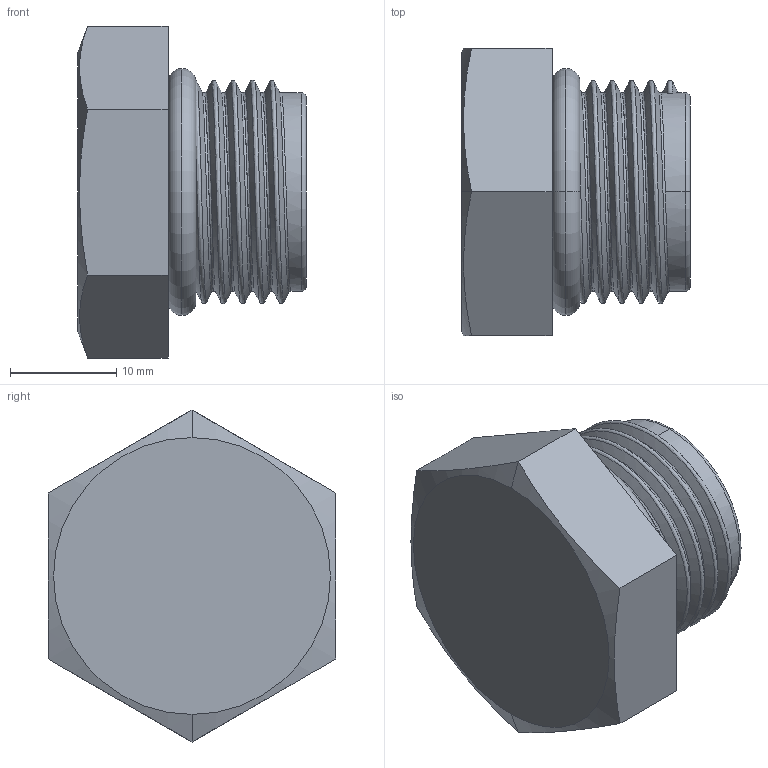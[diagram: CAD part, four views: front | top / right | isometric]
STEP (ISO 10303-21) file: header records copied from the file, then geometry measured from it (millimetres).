
FILE_DESCRIPTION (( 'STEP AP214' ), '1' );
FILE_NAME ('00200_0303.STEP', '2020-05-13T13:14:10', ( 'user' ), ( 'Hewlett-Packard Company' ), 'SwSTEP 2.0', 'SolidWorks 2011', '' );
FILE_SCHEMA (( 'AUTOMOTIVE_DESIGN' ));
Length unit declared in the file: millimetre
Products named in the file (1): 00200_0303
Bounding box: 21.5 x 27 x 31.18 mm (x, y, z)
Volume: 6478.2 mm3; surface area: 4599.3 mm2
Topology: 2 solids, 2 shells, 52 faces, 133 edges, 83 vertices
Faces by surface type: torus 13, cylinder 13, bspline 12, plane 10, cone 4
Entity records: 7676 total; most frequent: CARTESIAN_POINT 6566, ORIENTED_EDGE 262, DIRECTION 179, EDGE_CURVE 131, VERTEX_POINT 83, AXIS2_PLACEMENT_3D 76, EDGE_LOOP 54, FACE_OUTER_BOUND 52
